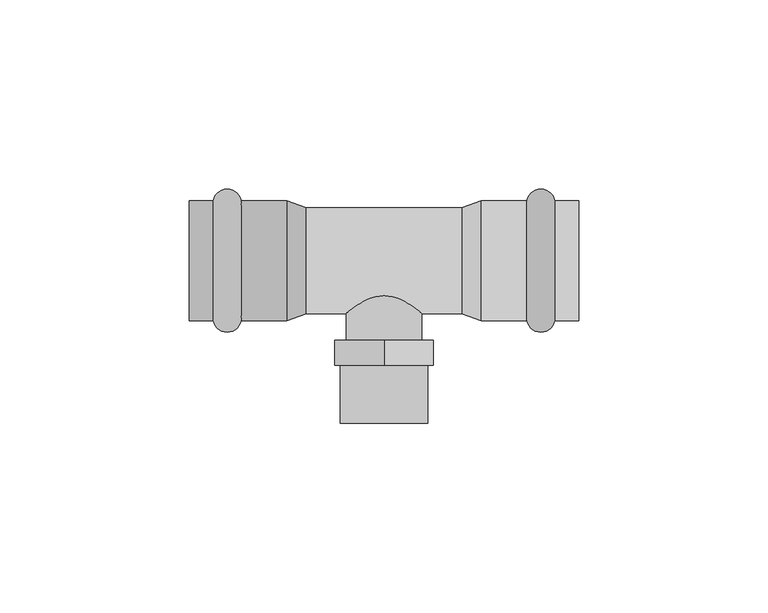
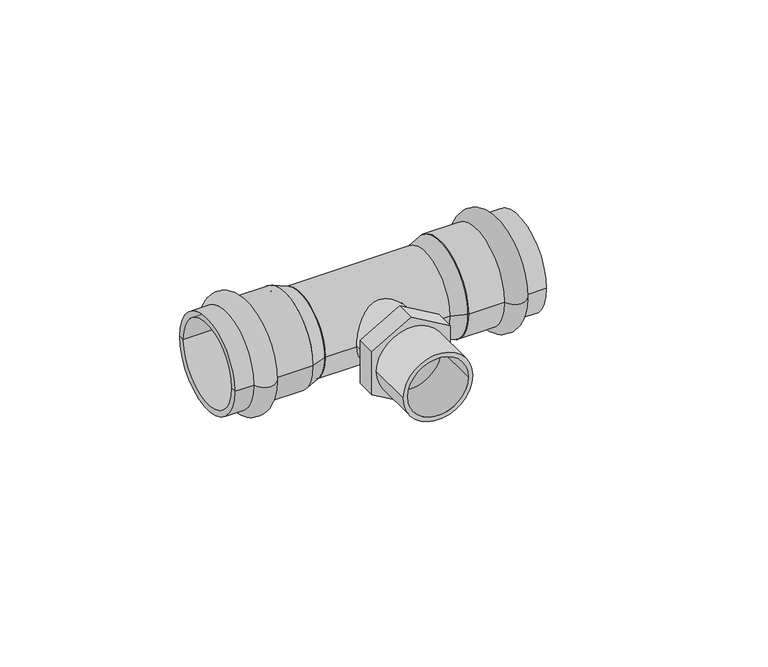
"""IFC4 building model written with IfcOpenShell, lengths in millimetres: pipe fitting geometry, VALTEC_VTi.933.I_Тройник с переходом на наружную  резьбу нержавеющая сталь : VTi.933.I."""

from ifc_helpers import new_model, si_unit, point, frame, origin, origin_2d, place, context, project, spatial, polyline, circle_curve, ellipse_curve, trimmed, segment, composite_curve, outline, extrude, source, transform, mapped, element, save
from ifc_brep_helpers import plane_surface, cylinder_surface, revolved_surface, advanced_brep


def pipe_fitting_ba8f9421(model_context):
    return source(origin(), model_context, "Body", "SolidModel", [
        advanced_brep(
        [(45.1242346, 15.9, 0.0), (45.1242346, -15.9, 0.0), (37.7757654, -15.9, 0.0), (37.7757654, 15.9, 0.0), (51.5, 15.9, 0.0), (51.5, -15.9, 0.0), (51.5, 14.0, 0.0), (51.5, -14.0, 0.0), (25.75, 14.0, 0.0), (25.75, -14.0, 0.0), (25.75, 15.9, 0.0), (25.75, -15.9, 0.0)],
        [
            (0, 1, circle_curve(frame((45.1242346, 0.0, 0.0), z_axis=(-1.0, 0.0, 0.0), x_axis=(0.0, -1.0, 0.0)), 15.9)),
            (1, 2, circle_curve(frame((41.45, -15.15, 0.0), z_axis=(0.0, 0.0, -1.0), x_axis=(-1.0, 0.0, 0.0)), 3.75)),
            (2, 3, circle_curve(frame((37.7757654, 0.0, 0.0), z_axis=(1.0, 0.0, 0.0), x_axis=(0.0, -1.0, 0.0)), 15.9)),
            (3, 0, circle_curve(frame((41.45, 15.15, 0.0), z_axis=(0.0, 0.0, -1.0), x_axis=(-1.0, 0.0, 0.0)), 3.75)),
            (1, 0, circle_curve(frame((45.1242346, 0.0, 0.0), z_axis=(-1.0, 0.0, 0.0), x_axis=(0.0, -1.0, 0.0)), 15.9)),
            (3, 2, circle_curve(frame((37.7757654, 0.0, 0.0), z_axis=(1.0, 0.0, 0.0), x_axis=(0.0, -1.0, 0.0)), 15.9)),
            (4, 5, circle_curve(frame((51.5, 0.0, 0.0), z_axis=(-1.0, 0.0, 0.0), x_axis=(0.0, -1.0, 0.0)), 15.9)),
            (5, 1),
            (0, 4),
            (5, 4, circle_curve(frame((51.5, 0.0, 0.0), z_axis=(-1.0, 0.0, 0.0), x_axis=(0.0, -1.0, 0.0)), 15.9)),
            (6, 7, circle_curve(frame((51.5, 0.0, 0.0), z_axis=(-1.0, 0.0, 0.0), x_axis=(0.0, -1.0, 0.0)), 14.0)),
            (7, 5),
            (4, 6),
            (7, 6, circle_curve(frame((51.5, 0.0, 0.0), z_axis=(-1.0, 0.0, 0.0), x_axis=(0.0, -1.0, 0.0)), 14.0)),
            (8, 9, circle_curve(frame((25.75, 0.0, 0.0), z_axis=(-1.0, 0.0, 0.0), x_axis=(0.0, -1.0, 0.0)), 14.0)),
            (9, 7),
            (6, 8),
            (9, 8, circle_curve(frame((25.75, 0.0, 0.0), z_axis=(-1.0, 0.0, 0.0), x_axis=(0.0, -1.0, 0.0)), 14.0)),
            (10, 11, circle_curve(frame((25.75, 0.0, 0.0), z_axis=(-1.0, 0.0, 0.0), x_axis=(0.0, -1.0, 0.0)), 15.9)),
            (11, 9),
            (8, 10),
            (11, 10, circle_curve(frame((25.75, 0.0, 0.0), z_axis=(-1.0, 0.0, 0.0), x_axis=(0.0, -1.0, 0.0)), 15.9)),
            (2, 11),
            (10, 3),
        ],
        [
            revolved_surface(trimmed(ellipse_curve(frame((41.45, -15.15, 0.0), z_axis=(0.0, 0.0, 1.0), x_axis=(-1.0, 0.0, 0.0)), 3.75, 3.75), [point((37.7757654, -15.9, 0.0))], [point((45.1242346, -15.9, 0.0))], True, "CARTESIAN"), (55.0364426, 0.0, 0.0), (1.0, 0.0, 0.0)),
            cylinder_surface(frame((55.0364426, 0.0, 0.0), z_axis=(1.0, 0.0, 0.0), x_axis=(0.0, -1.0, 0.0)), 15.9),
            plane_surface(frame((51.5, 0.0, 0.0), z_axis=(1.0, 0.0, 0.0), x_axis=(0.0, -1.0, 0.0))),
            revolved_surface(polyline([(51.5, -14.0, 0.0), (25.75, -14.0, 0.0)]), (55.0364426, 0.0, 0.0), (1.0, 0.0, 0.0)),
            plane_surface(frame((25.75, 0.0, 0.0), z_axis=(-1.0, 0.0, 0.0), x_axis=(0.0, -1.0, 0.0))),
        ],
        [
            (0, [[1, 2, 3, 4]]),
            (0, [[5, -4, 6, -2]]),
            (1, [[7, 8, -1, 9]]),
            (1, [[10, -9, -5, -8]]),
            (2, [[11, 12, -7, 13]]),
            (2, [[14, -13, -10, -12]]),
            (3, [[15, 16, -11, 17]]),
            (3, [[18, -17, -14, -16]]),
            (4, [[19, 20, -15, 21]]),
            (4, [[22, -21, -18, -20]]),
            (1, [[-3, 23, -19, 24]]),
            (1, [[-6, -24, -22, -23]]),
        ],
    ),
        advanced_brep(
        [(-45.1242346, -15.9, 0.0), (-45.1242346, 15.9, 0.0), (-37.7757654, 15.9, 0.0), (-37.7757654, -15.9, 0.0), (-51.5, -15.9, 0.0), (-51.5, 15.9, 0.0), (-51.5, -14.0, 0.0), (-51.5, 14.0, 0.0), (-25.75, -14.0, 0.0), (-25.75, 14.0, 0.0), (-25.75, -15.9, 0.0), (-25.75, 15.9, 0.0)],
        [
            (0, 1, circle_curve(frame((-45.1242346, 0.0, 0.0), z_axis=(1.0, 0.0, 0.0), x_axis=(0.0, 1.0, 0.0)), 15.9)),
            (1, 2, circle_curve(frame((-41.45, 15.15, 0.0), z_axis=(0.0, 0.0, -1.0), x_axis=(1.0, 0.0, 0.0)), 3.75)),
            (2, 3, circle_curve(frame((-37.7757654, 0.0, 0.0), z_axis=(-1.0, 0.0, 0.0), x_axis=(0.0, 1.0, 0.0)), 15.9)),
            (3, 0, circle_curve(frame((-41.45, -15.15, 0.0), z_axis=(0.0, 0.0, -1.0), x_axis=(1.0, 0.0, 0.0)), 3.75)),
            (1, 0, circle_curve(frame((-45.1242346, 0.0, 0.0), z_axis=(1.0, 0.0, 0.0), x_axis=(0.0, 1.0, 0.0)), 15.9)),
            (3, 2, circle_curve(frame((-37.7757654, 0.0, 0.0), z_axis=(-1.0, 0.0, 0.0), x_axis=(0.0, 1.0, 0.0)), 15.9)),
            (4, 5, circle_curve(frame((-51.5, 0.0, 0.0), z_axis=(1.0, 0.0, 0.0), x_axis=(0.0, 1.0, 0.0)), 15.9)),
            (5, 1),
            (0, 4),
            (5, 4, circle_curve(frame((-51.5, 0.0, 0.0), z_axis=(1.0, 0.0, 0.0), x_axis=(0.0, 1.0, 0.0)), 15.9)),
            (6, 7, circle_curve(frame((-51.5, 0.0, 0.0), z_axis=(1.0, 0.0, 0.0), x_axis=(0.0, 1.0, 0.0)), 14.0)),
            (7, 5),
            (4, 6),
            (7, 6, circle_curve(frame((-51.5, 0.0, 0.0), z_axis=(1.0, 0.0, 0.0), x_axis=(0.0, 1.0, 0.0)), 14.0)),
            (8, 9, circle_curve(frame((-25.75, 0.0, 0.0), z_axis=(1.0, 0.0, 0.0), x_axis=(0.0, 1.0, 0.0)), 14.0)),
            (9, 7),
            (6, 8),
            (9, 8, circle_curve(frame((-25.75, 0.0, 0.0), z_axis=(1.0, 0.0, 0.0), x_axis=(0.0, 1.0, 0.0)), 14.0)),
            (10, 11, circle_curve(frame((-25.75, 0.0, 0.0), z_axis=(1.0, 0.0, 0.0), x_axis=(0.0, 1.0, 0.0)), 15.9)),
            (11, 9),
            (8, 10),
            (11, 10, circle_curve(frame((-25.75, 0.0, 0.0), z_axis=(1.0, 0.0, 0.0), x_axis=(0.0, 1.0, 0.0)), 15.9)),
            (2, 11),
            (10, 3),
        ],
        [
            revolved_surface(trimmed(ellipse_curve(frame((-41.45, 15.15, 0.0), z_axis=(0.0, 0.0, 1.0), x_axis=(1.0, 0.0, 0.0)), 3.75, 3.75), [point((-37.7757654, 15.9, 0.0))], [point((-45.1242346, 15.9, 0.0))], True, "CARTESIAN"), (-55.0364426, 0.0, 0.0), (-1.0, 0.0, 0.0)),
            cylinder_surface(frame((-55.0364426, 0.0, 0.0), z_axis=(-1.0, 0.0, 0.0), x_axis=(0.0, 1.0, 0.0)), 15.9),
            plane_surface(frame((-51.5, 0.0, 0.0), z_axis=(-1.0, 0.0, 0.0), x_axis=(0.0, 1.0, 0.0))),
            revolved_surface(polyline([(-51.5, 14.0, 0.0), (-25.75, 14.0, 0.0)]), (-55.0364426, 0.0, 0.0), (-1.0, 0.0, 0.0)),
            plane_surface(frame((-25.75, 0.0, 0.0), z_axis=(1.0, 0.0, 0.0), x_axis=(0.0, 1.0, 0.0))),
        ],
        [
            (0, [[1, 2, 3, 4]]),
            (0, [[5, -4, 6, -2]]),
            (1, [[7, 8, -1, 9]]),
            (1, [[10, -9, -5, -8]]),
            (2, [[11, 12, -7, 13]]),
            (2, [[14, -13, -10, -12]]),
            (3, [[15, 16, -11, 17]]),
            (3, [[18, -17, -14, -16]]),
            (4, [[19, 20, -15, 21]]),
            (4, [[22, -21, -18, -20]]),
            (1, [[-3, 23, -19, 24]]),
            (1, [[-6, -24, -22, -23]]),
        ],
    ),
        extrude(outline(composite_curve([segment(trimmed(circle_curve(origin_2d(), 11.5), [point((0.0, -11.5))], [point((0.0, 11.5))], False, "CARTESIAN"), True, "CONTINUOUS"), segment(trimmed(circle_curve(origin_2d(), 11.5), [point((0.0, 11.5))], [point((0.0, -11.5))], False, "CARTESIAN"), True, "CONTINUOUS")], self_intersect=False), holes=[composite_curve([segment(trimmed(circle_curve(origin_2d(), 10.0), [point((0.0, -10.0))], [point((0.0, 10.0))], True, "CARTESIAN"), True, "CONTINUOUS"), segment(trimmed(circle_curve(origin_2d(), 10.0), [point((0.0, 10.0))], [point((0.0, -10.0))], True, "CARTESIAN"), True, "CONTINUOUS")], self_intersect=False)]), frame((0.0, -43.0, 0.0), z_axis=(0.0, 1.0, 0.0), x_axis=(0.0, 0.0, 1.0)), (0.0, 0.0, 1.0), 15.4),
        extrude(outline(polyline([(15.011107, 0.0), (7.5055535, -13.0), (-7.5055535, -13.0), (-15.011107, 0.0), (-7.5055535, 13.0), (7.5055535, 13.0), (15.011107, 0.0)]), holes=[composite_curve([segment(trimmed(circle_curve(origin_2d(), 10.0), [point((0.0, -10.0))], [point((0.0, 10.0))], True, "CARTESIAN"), True, "CONTINUOUS"), segment(trimmed(circle_curve(origin_2d(), 10.0), [point((0.0, 10.0))], [point((0.0, -10.0))], True, "CARTESIAN"), True, "CONTINUOUS")], self_intersect=False)]), frame((0.0, -27.6, 0.0), z_axis=(0.0, 1.0, 0.0), x_axis=(0.0, 0.0, 1.0)), (0.0, 0.0, 1.0), 6.6),
        extrude(outline(composite_curve([segment(trimmed(circle_curve(origin_2d(), 10.0), [point((0.0, -10.0))], [point((0.0, 10.0))], False, "CARTESIAN"), True, "CONTINUOUS"), segment(trimmed(circle_curve(origin_2d(), 10.0), [point((0.0, 10.0))], [point((0.0, -10.0))], False, "CARTESIAN"), True, "CONTINUOUS")], self_intersect=False)), frame((0.0, -21.0, 0.0), z_axis=(0.0, 1.0, 0.0), x_axis=(0.0, 0.0, 1.0)), (0.0, 0.0, 1.0), 21.0),
        extrude(outline(composite_curve([segment(trimmed(circle_curve(origin_2d(), 14.0), [point((-14.0, 0.0))], [point((14.0, 0.0))], False, "CARTESIAN"), True, "CONTINUOUS"), segment(trimmed(circle_curve(origin_2d(), 14.0), [point((14.0, 0.0))], [point((-14.0, 0.0))], False, "CARTESIAN"), True, "CONTINUOUS")], self_intersect=False)), frame((-20.6, 0.0, 0.0), z_axis=(1.0, 0.0, 0.0), x_axis=(0.0, 1.0, 0.0)), (0.0, 0.0, 1.0), 41.2),
        advanced_brep(
        [(25.75, -15.9, 0.0), (25.75, 15.9, 0.0), (20.6, -14.0, 0.0), (20.6, 14.0, 0.0)],
        [
            (0, 1, circle_curve(frame((25.75, 0.0, 0.0), z_axis=(1.0, 0.0, 0.0), x_axis=(0.0, -1.0, 0.0)), 15.9)),
            (1, 0, circle_curve(frame((25.75, 0.0, 0.0), z_axis=(1.0, 0.0, 0.0), x_axis=(0.0, 1.0, 0.0)), 15.9)),
            (2, 3, circle_curve(frame((20.6, 0.0, 0.0), z_axis=(-1.0, 0.0, 0.0), x_axis=(0.0, 1.0, 0.0)), 14.0)),
            (3, 2, circle_curve(frame((20.6, 0.0, 0.0), z_axis=(-1.0, 0.0, 0.0), x_axis=(0.0, -1.0, 0.0)), 14.0)),
            (3, 1),
            (0, 2),
        ],
        [
            plane_surface(frame((25.75, 0.0, 0.0), z_axis=(1.0, 0.0, 0.0), x_axis=(0.0, 0.0, 1.0))),
            plane_surface(frame((20.6, 0.0, 0.0), z_axis=(-1.0, 0.0, 0.0), x_axis=(0.0, 0.0, 1.0))),
            revolved_surface(polyline([(20.6, 13.999999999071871, 0.0), (25.75, 15.9, 0.0)]), (-17.3473684, 0.0, 0.0), (1.0, 0.0, 0.0)),
            revolved_surface(polyline([(20.6, -13.999999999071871, 0.0), (25.75, -15.9, 0.0)]), (-17.3473684, 0.0, 0.0), (1.0, 0.0, 0.0)),
        ],
        [
            (0, [[1, 2]]),
            (1, [[3, 4]]),
            (2, [[-4, 5, -1, 6]]),
            (3, [[-3, -6, -2, -5]]),
        ],
    ),
        advanced_brep(
        [(-25.75, -15.9, 0.0), (-25.75, 15.9, 0.0), (-20.6, -14.0, 0.0), (-20.6, 14.0, 0.0)],
        [
            (0, 1, circle_curve(frame((-25.75, 0.0, 0.0), z_axis=(-1.0, 0.0, 0.0), x_axis=(0.0, -1.0, 0.0)), 15.9)),
            (1, 0, circle_curve(frame((-25.75, 0.0, 0.0), z_axis=(-1.0, 0.0, 0.0), x_axis=(0.0, 1.0, 0.0)), 15.9)),
            (2, 3, circle_curve(frame((-20.6, 0.0, 0.0), z_axis=(1.0, 0.0, 0.0), x_axis=(0.0, 1.0, 0.0)), 14.0)),
            (3, 2, circle_curve(frame((-20.6, 0.0, 0.0), z_axis=(1.0, 0.0, 0.0), x_axis=(0.0, -1.0, 0.0)), 14.0)),
            (2, 0),
            (1, 3),
        ],
        [
            plane_surface(frame((-25.75, 0.0, 0.0), z_axis=(-1.0, 0.0, 0.0), x_axis=(0.0, 0.0, -1.0))),
            plane_surface(frame((-20.6, 0.0, 0.0), z_axis=(1.0, 0.0, 0.0), x_axis=(0.0, 0.0, -1.0))),
            revolved_surface(polyline([(-20.6, -13.999999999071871, 0.0), (-25.75, -15.9, 0.0)]), (17.3473684, 0.0, 0.0), (-1.0, 0.0, 0.0)),
            revolved_surface(polyline([(-20.6, 13.999999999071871, 0.0), (-25.75, 15.9, 0.0)]), (17.3473684, 0.0, 0.0), (-1.0, 0.0, 0.0)),
        ],
        [
            (0, [[1, 2]]),
            (1, [[3, 4]]),
            (2, [[-3, 5, -2, 6]]),
            (3, [[-4, -6, -1, -5]]),
        ],
    ),
    ])


if __name__ == "__main__":
    model = new_model("IFC4")
    model_context = context("Model", 3, world=origin())
    ifc_project = project(units=[si_unit("LENGTHUNIT", "METRE", prefix="MILLI")], contexts=[model_context])
    site = spatial("IfcSite", under=ifc_project)
    building = spatial("IfcBuilding", under=site)
    placement = place(None, origin())
    pipe_fitting_shape = pipe_fitting_ba8f9421(model_context)
    element("IfcPipeFitting", 1, ObjectType="VALTEC_VTi.933.I_Тройник с переходом на наружную  резьбу нержавеющая сталь : VTi.933.I", at=placement, inside=building, context=model_context, shape_type="MappedRepresentation", body=[
        mapped(pipe_fitting_shape, transform((0.0, 0.0, 0.0), x_axis=(1.0, 0.0, 0.0), y_axis=(0.0, 1.0, 0.0), z_axis=(0.0, 0.0, 1.0))),
    ])
    save(model, "model.ifc")
